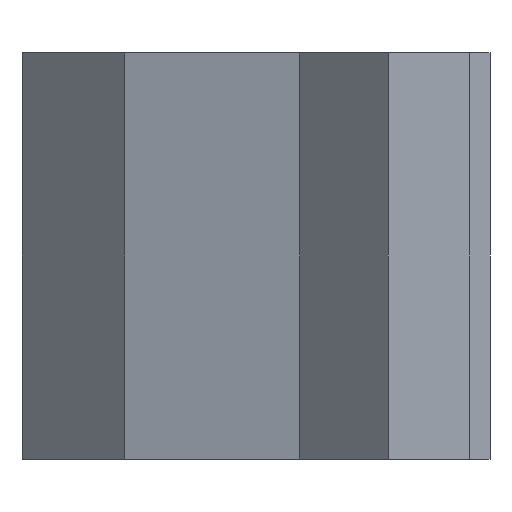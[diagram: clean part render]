
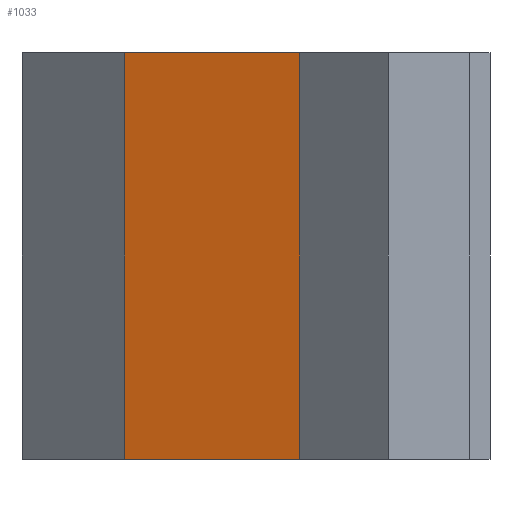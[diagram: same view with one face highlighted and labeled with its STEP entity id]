
A CAD part, front view. The second image highlights one B-rep face of the part: STEP entity #1033.
In plain terms, the highlighted planar face has unit normal (-0.289, -0.957, 0).
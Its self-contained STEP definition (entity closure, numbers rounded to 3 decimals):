
#38 = CARTESIAN_POINT ( 'NONE',  ( -25.436, 37.436, 0. ) ) ;
#58 = VECTOR ( 'NONE', #969, 1000. ) ;
#110 = EDGE_CURVE ( 'NONE', #925, #292, #913, .T. ) ;
#125 = VECTOR ( 'NONE', #625, 1000. ) ;
#200 = EDGE_CURVE ( 'NONE', #929, #925, #416, .T. ) ;
#209 = CARTESIAN_POINT ( 'NONE',  ( -12.537, 33.537, 30. ) ) ;
#253 = PLANE ( 'NONE',  #483 ) ;
#258 = CARTESIAN_POINT ( 'NONE',  ( -25.436, 37.436, 30. ) ) ;
#270 = ORIENTED_EDGE ( 'NONE', *, *, #110, .T. ) ;
#292 = VERTEX_POINT ( 'NONE', #482 ) ;
#294 = ORIENTED_EDGE ( 'NONE', *, *, #706, .F. ) ;
#297 = EDGE_CURVE ( 'NONE', #929, #352, #909, .T. ) ;
#352 = VERTEX_POINT ( 'NONE', #758 ) ;
#392 = VECTOR ( 'NONE', #492, 1000. ) ;
#416 = LINE ( 'NONE', #741, #968 ) ;
#419 = DIRECTION ( 'NONE',  ( -0.957, 0.289, 0. ) ) ;
#428 = DIRECTION ( 'NONE',  ( 0.289, 0.957, 0. ) ) ;
#449 = EDGE_LOOP ( 'NONE', ( #270, #294, #748, #591 ) ) ;
#481 = CARTESIAN_POINT ( 'NONE',  ( -25.436, 37.436, 0. ) ) ;
#482 = CARTESIAN_POINT ( 'NONE',  ( -12.537, 33.537, 0. ) ) ;
#483 = AXIS2_PLACEMENT_3D ( 'NONE', #258, #428, #419 ) ;
#492 = DIRECTION ( 'NONE',  ( 0.957, -0.289, 0. ) ) ;
#521 = FACE_OUTER_BOUND ( 'NONE', #449, .T. ) ;
#591 = ORIENTED_EDGE ( 'NONE', *, *, #200, .T. ) ;
#625 = DIRECTION ( 'NONE',  ( 0.957, -0.289, 0. ) ) ;
#706 = EDGE_CURVE ( 'NONE', #352, #292, #738, .T. ) ;
#729 = DIRECTION ( 'NONE',  ( 0., 0., -1. ) ) ;
#738 = LINE ( 'NONE', #209, #58 ) ;
#741 = CARTESIAN_POINT ( 'NONE',  ( -25.436, 37.436, 30. ) ) ;
#748 = ORIENTED_EDGE ( 'NONE', *, *, #297, .F. ) ;
#758 = CARTESIAN_POINT ( 'NONE',  ( -12.537, 33.537, 30. ) ) ;
#858 = CARTESIAN_POINT ( 'NONE',  ( -25.436, 37.436, 30. ) ) ;
#909 = LINE ( 'NONE', #1095, #392 ) ;
#913 = LINE ( 'NONE', #38, #125 ) ;
#925 = VERTEX_POINT ( 'NONE', #481 ) ;
#929 = VERTEX_POINT ( 'NONE', #858 ) ;
#968 = VECTOR ( 'NONE', #729, 1000. ) ;
#969 = DIRECTION ( 'NONE',  ( 0., 0., -1. ) ) ;
#1033 = ADVANCED_FACE ( 'NONE', ( #521 ), #253, .F. ) ;
#1095 = CARTESIAN_POINT ( 'NONE',  ( -25.436, 37.436, 30. ) ) ;
